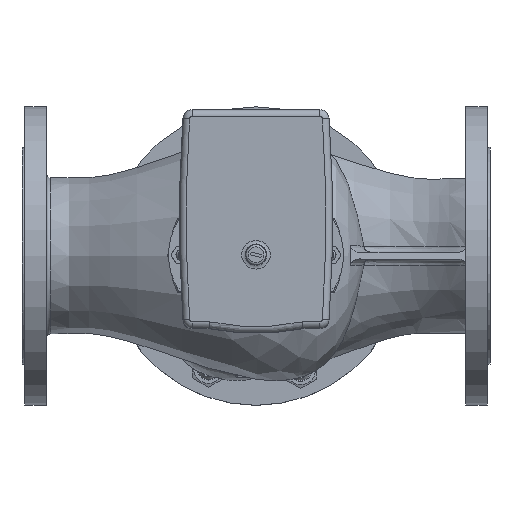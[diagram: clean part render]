
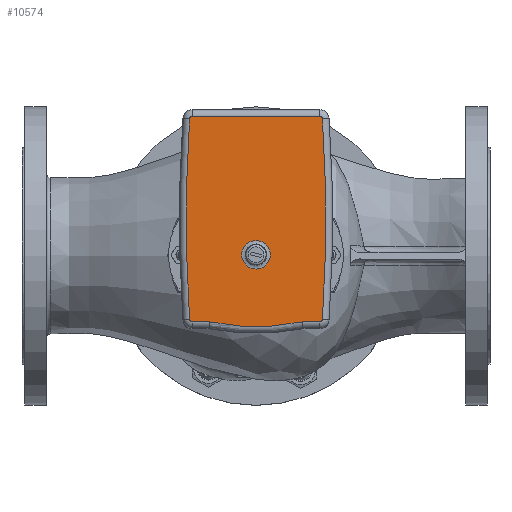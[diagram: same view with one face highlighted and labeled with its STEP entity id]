
A CAD part, top view. The second image highlights one B-rep face of the part: STEP entity #10574.
In plain terms, the highlighted planar face has unit normal (0, 0, 1).
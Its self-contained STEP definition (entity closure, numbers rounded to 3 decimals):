
#774=LINE('',#23577,#1372);
#775=LINE('',#23581,#1373);
#776=LINE('',#23589,#1374);
#1372=VECTOR('',#17310,1000.);
#1373=VECTOR('',#17313,1000.);
#1374=VECTOR('',#17320,1000.);
#1830=PLANE('',#15194);
#2279=CIRCLE('',#15193,10.521);
#2280=CIRCLE('',#15195,1.964);
#2281=CIRCLE('',#15196,169.964);
#2282=CIRCLE('',#15197,1.964);
#2283=CIRCLE('',#15198,1096.964);
#2284=CIRCLE('',#15199,1.964);
#2285=CIRCLE('',#15200,1.964);
#2286=CIRCLE('',#15201,1096.964);
#3850=ORIENTED_EDGE('',*,*,#6183,.T.);
#3851=ORIENTED_EDGE('',*,*,#6184,.T.);
#3852=ORIENTED_EDGE('',*,*,#6185,.T.);
#3853=ORIENTED_EDGE('',*,*,#6186,.T.);
#3854=ORIENTED_EDGE('',*,*,#6187,.T.);
#3855=ORIENTED_EDGE('',*,*,#6188,.T.);
#3856=ORIENTED_EDGE('',*,*,#6189,.T.);
#3857=ORIENTED_EDGE('',*,*,#6190,.T.);
#3858=ORIENTED_EDGE('',*,*,#6191,.T.);
#3859=ORIENTED_EDGE('',*,*,#6192,.T.);
#3860=ORIENTED_EDGE('',*,*,#6193,.T.);
#6183=EDGE_CURVE('',#7483,#7483,#2279,.T.);
#6184=EDGE_CURVE('',#7484,#7485,#2280,.F.);
#6185=EDGE_CURVE('',#7485,#7486,#774,.F.);
#6186=EDGE_CURVE('',#7486,#7487,#2281,.F.);
#6187=EDGE_CURVE('',#7487,#7488,#775,.F.);
#6188=EDGE_CURVE('',#7488,#7489,#2282,.F.);
#6189=EDGE_CURVE('',#7489,#7490,#2283,.F.);
#6190=EDGE_CURVE('',#7490,#7491,#2284,.F.);
#6191=EDGE_CURVE('',#7491,#7492,#776,.F.);
#6192=EDGE_CURVE('',#7492,#7493,#2285,.F.);
#6193=EDGE_CURVE('',#7493,#7484,#2286,.F.);
#7483=VERTEX_POINT('',#23572);
#7484=VERTEX_POINT('',#23575);
#7485=VERTEX_POINT('',#23576);
#7486=VERTEX_POINT('',#23578);
#7487=VERTEX_POINT('',#23580);
#7488=VERTEX_POINT('',#23582);
#7489=VERTEX_POINT('',#23584);
#7490=VERTEX_POINT('',#23586);
#7491=VERTEX_POINT('',#23588);
#7492=VERTEX_POINT('',#23590);
#7493=VERTEX_POINT('',#23592);
#8785=EDGE_LOOP('',(#3850));
#8786=EDGE_LOOP('',(#3851,#3852,#3853,#3854,#3855,#3856,#3857,#3858,#3859,
#3860));
#9753=FACE_BOUND('',#8785,.T.);
#9754=FACE_BOUND('',#8786,.T.);
#10574=ADVANCED_FACE('',(#9753,#9754),#1830,.F.);
#15193=AXIS2_PLACEMENT_3D('',#23571,#17304,#17305);
#15194=AXIS2_PLACEMENT_3D('',#23573,#17306,#17307);
#15195=AXIS2_PLACEMENT_3D('',#23574,#17308,#17309);
#15196=AXIS2_PLACEMENT_3D('',#23579,#17311,#17312);
#15197=AXIS2_PLACEMENT_3D('',#23583,#17314,#17315);
#15198=AXIS2_PLACEMENT_3D('',#23585,#17316,#17317);
#15199=AXIS2_PLACEMENT_3D('',#23587,#17318,#17319);
#15200=AXIS2_PLACEMENT_3D('',#23591,#17321,#17322);
#15201=AXIS2_PLACEMENT_3D('',#23593,#17323,#17324);
#17304=DIRECTION('',(0.,0.,-1.));
#17305=DIRECTION('',(-1.,0.,0.));
#17306=DIRECTION('',(0.,0.,-1.));
#17307=DIRECTION('',(-1.,0.,0.));
#17308=DIRECTION('',(0.,0.,-1.));
#17309=DIRECTION('',(-1.,0.,0.));
#17310=DIRECTION('',(0.,1.,0.));
#17311=DIRECTION('',(0.,0.,-1.));
#17312=DIRECTION('',(-1.,0.,0.));
#17313=DIRECTION('',(0.,1.,0.));
#17314=DIRECTION('',(0.,0.,-1.));
#17315=DIRECTION('',(-1.,0.,0.));
#17316=DIRECTION('',(0.,0.,-1.));
#17317=DIRECTION('',(-1.,0.,0.));
#17318=DIRECTION('',(0.,0.,-1.));
#17319=DIRECTION('',(-1.,0.,0.));
#17320=DIRECTION('',(0.,-1.,0.));
#17321=DIRECTION('',(0.,0.,-1.));
#17322=DIRECTION('',(-1.,0.,0.));
#17323=DIRECTION('',(0.,0.,-1.));
#17324=DIRECTION('',(-1.,0.,0.));
#23571=CARTESIAN_POINT('',(0.,0.,109.084));
#23572=CARTESIAN_POINT('',(-10.521,0.,109.084));
#23573=CARTESIAN_POINT('',(0.,0.,109.084));
#23574=CARTESIAN_POINT('',(-47.508,47.,109.084));
#23575=CARTESIAN_POINT('',(-47.64,48.96,109.084));
#23576=CARTESIAN_POINT('',(-49.472,47.,109.084));
#23577=CARTESIAN_POINT('',(-49.472,34.599,109.084));
#23578=CARTESIAN_POINT('',(-49.472,34.096,109.084));
#23579=CARTESIAN_POINT('',(117.037,0.,109.084));
#23580=CARTESIAN_POINT('',(-49.472,-34.096,109.084));
#23581=CARTESIAN_POINT('',(-49.472,-47.,109.084));
#23582=CARTESIAN_POINT('',(-49.472,-47.,109.084));
#23583=CARTESIAN_POINT('',(-47.508,-47.,109.084));
#23584=CARTESIAN_POINT('',(-47.64,-48.96,109.084));
#23585=CARTESIAN_POINT('',(26.246,1045.513,109.084));
#23586=CARTESIAN_POINT('',(100.132,-48.96,109.084));
#23587=CARTESIAN_POINT('',(100.,-47.,109.084));
#23588=CARTESIAN_POINT('',(101.964,-47.,109.084));
#23589=CARTESIAN_POINT('',(101.964,47.,109.084));
#23590=CARTESIAN_POINT('',(101.964,47.,109.084));
#23591=CARTESIAN_POINT('',(100.,47.,109.084));
#23592=CARTESIAN_POINT('',(100.132,48.96,109.084));
#23593=CARTESIAN_POINT('',(26.246,-1045.513,109.084));
